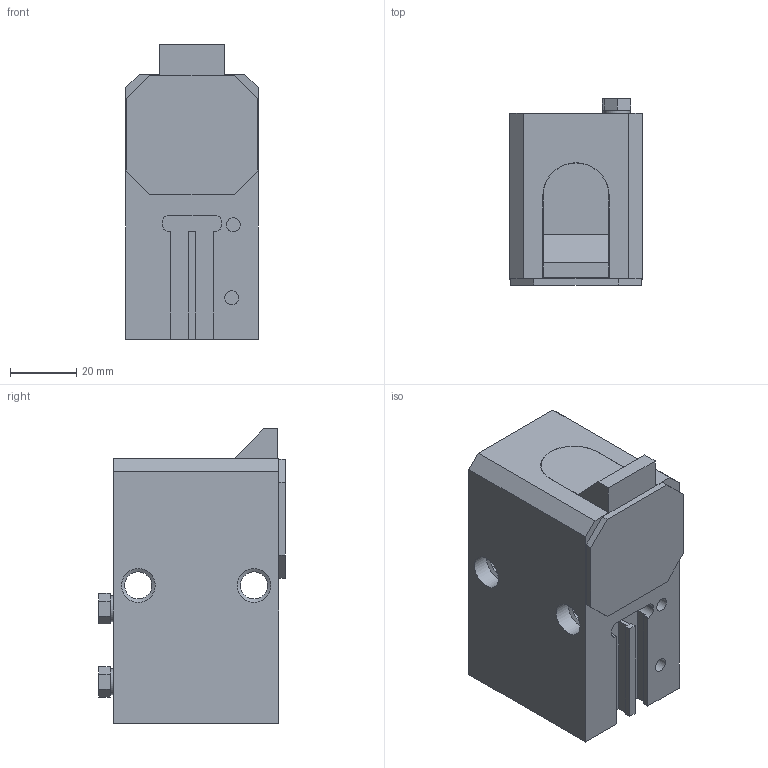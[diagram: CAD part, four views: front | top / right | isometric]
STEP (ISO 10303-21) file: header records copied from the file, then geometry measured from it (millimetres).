
FILE_DESCRIPTION(/* description */ ('Stopper SU-400-DW-09-E'),/* implementation_level */ '2;1');
FILE_NAME(/* name */ 'C:\Marketing\01_Versamove-SPU_STEP-Dateien-Homepage\Versamove plus\Stopper\K503012401_Stopper SU-400-DW-09.stp',/* time_stamp */ '2017-02-01T13:39:15+01:00',/* author */ ('herbert.engels'),/* organization */ (''),/* preprocessor_version */ 'ST-DEVELOPER v15.6',/* originating_system */ 'Autodesk Inventor 2015',/* authorisation */ '');
FILE_SCHEMA (('CONFIG_CONTROL_DESIGN'));
Length unit declared in the file: millimetre
Products named in the file (1): T-ENG556642
Bounding box: 40 x 56.5 x 89 mm (x, y, z)
Volume: 150157.9 mm3; surface area: 29816.3 mm2
Topology: 1 solids, 5 shells, 124 faces, 299 edges, 197 vertices
Faces by surface type: plane 83, cylinder 35, cone 6
Full cylindrical faces by diameter (mm): 2.5 x2, 4.2 x4, 5 x2, 5.2 x2, 7.8 x2, 8.2 x2, 10.2 x4, 19.95 x1, 24.8 x1, 35.92 x1, 36.05 x2, 38.05 x1
Entity records: 3571 total; most frequent: DIRECTION 586, CARTESIAN_POINT 573, ORIENTED_EDGE 520, EDGE_CURVE 260, AXIS2_PLACEMENT_3D 201, VERTEX_POINT 188, LINE 184, VECTOR 184
